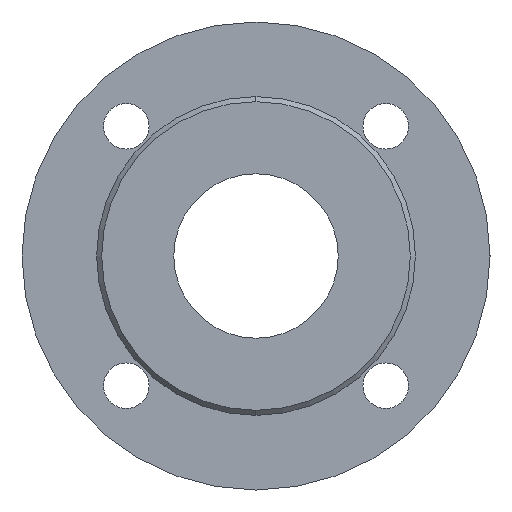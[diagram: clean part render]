
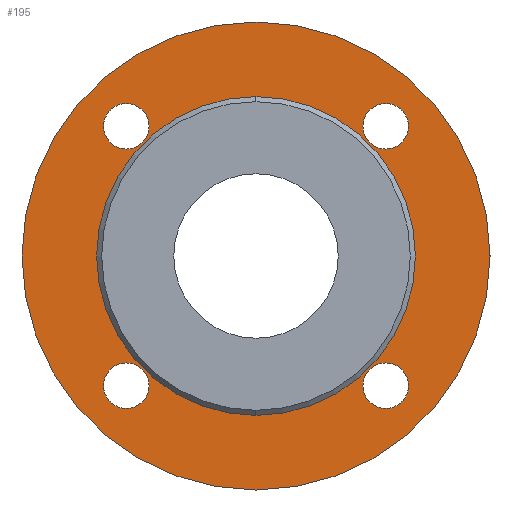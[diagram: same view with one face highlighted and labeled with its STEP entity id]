
A CAD part, left-side view. The second image highlights one B-rep face of the part: STEP entity #195.
In plain terms, the highlighted planar face has unit normal (-1, 0, 0).
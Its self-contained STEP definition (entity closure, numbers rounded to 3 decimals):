
#195=ADVANCED_FACE('',(#384,#385,#386,#387,#388,#389),#390,.F.);
#384=FACE_BOUND('',#580,.T.);
#385=FACE_BOUND('',#581,.T.);
#386=FACE_BOUND('',#582,.T.);
#387=FACE_BOUND('',#583,.T.);
#388=FACE_BOUND('',#584,.T.);
#389=FACE_OUTER_BOUND('',#585,.T.);
#390=PLANE('',#586);
#580=EDGE_LOOP('',(#943,#944));
#581=EDGE_LOOP('',(#945,#946));
#582=EDGE_LOOP('',(#947,#948));
#583=EDGE_LOOP('',(#949,#950));
#584=EDGE_LOOP('',(#951,#952));
#585=EDGE_LOOP('',(#953,#954));
#586=AXIS2_PLACEMENT_3D('',#955,#956,#957);
#943=ORIENTED_EDGE('',*,*,#1128,.T.);
#944=ORIENTED_EDGE('',*,*,#1144,.T.);
#945=ORIENTED_EDGE('',*,*,#1119,.T.);
#946=ORIENTED_EDGE('',*,*,#1146,.T.);
#947=ORIENTED_EDGE('',*,*,#1028,.T.);
#948=ORIENTED_EDGE('',*,*,#1062,.T.);
#949=ORIENTED_EDGE('',*,*,#1165,.T.);
#950=ORIENTED_EDGE('',*,*,#1067,.T.);
#951=ORIENTED_EDGE('',*,*,#1133,.T.);
#952=ORIENTED_EDGE('',*,*,#1157,.T.);
#953=ORIENTED_EDGE('',*,*,#1121,.F.);
#954=ORIENTED_EDGE('',*,*,#1107,.F.);
#955=CARTESIAN_POINT('',(2.0,0.0,0.));
#956=DIRECTION('',(1.0,0.0,0.));
#957=DIRECTION('',(0.,0.0,-1.0));
#1028=EDGE_CURVE('',#1191,#1195,#1197,.T.);
#1062=EDGE_CURVE('',#1195,#1191,#1257,.T.);
#1067=EDGE_CURVE('',#1264,#1262,#1265,.T.);
#1107=EDGE_CURVE('',#1324,#1319,#1326,.T.);
#1119=EDGE_CURVE('',#1336,#1340,#1342,.T.);
#1121=EDGE_CURVE('',#1319,#1324,#1344,.T.);
#1128=EDGE_CURVE('',#1349,#1353,#1355,.T.);
#1133=EDGE_CURVE('',#1358,#1362,#1364,.T.);
#1144=EDGE_CURVE('',#1353,#1349,#1375,.T.);
#1146=EDGE_CURVE('',#1340,#1336,#1377,.T.);
#1157=EDGE_CURVE('',#1362,#1358,#1388,.T.);
#1165=EDGE_CURVE('',#1262,#1264,#1396,.T.);
#1191=VERTEX_POINT('',#1424);
#1195=VERTEX_POINT('',#1429);
#1197=CIRCLE('',#1432,9.0);
#1257=CIRCLE('',#1498,9.0);
#1262=VERTEX_POINT('',#1503);
#1264=VERTEX_POINT('',#1506);
#1265=CIRCLE('',#1507,9.0);
#1319=VERTEX_POINT('',#1570);
#1324=VERTEX_POINT('',#1576);
#1326=CIRCLE('',#1579,92.5);
#1336=VERTEX_POINT('',#1591);
#1340=VERTEX_POINT('',#1596);
#1342=CIRCLE('',#1599,9.0);
#1344=CIRCLE('',#1601,92.5);
#1349=VERTEX_POINT('',#1606);
#1353=VERTEX_POINT('',#1611);
#1355=CIRCLE('',#1614,32.5);
#1358=VERTEX_POINT('',#1617);
#1362=VERTEX_POINT('',#1622);
#1364=CIRCLE('',#1625,9.0);
#1375=CIRCLE('',#1638,32.5);
#1377=CIRCLE('',#1640,9.0);
#1388=CIRCLE('',#1655,9.0);
#1396=CIRCLE('',#1663,9.0);
#1424=CARTESIAN_POINT('',(2.0,51.265,42.265));
#1429=CARTESIAN_POINT('',(2.0,51.265,60.265));
#1432=AXIS2_PLACEMENT_3D('',#1694,#1695,#1696);
#1498=AXIS2_PLACEMENT_3D('',#1766,#1767,#1768);
#1503=CARTESIAN_POINT('',(2.0,-51.265,42.265));
#1506=CARTESIAN_POINT('',(2.0,-51.265,60.265));
#1507=AXIS2_PLACEMENT_3D('',#1773,#1774,#1775);
#1570=CARTESIAN_POINT('',(2.,0.0,-92.5));
#1576=CARTESIAN_POINT('',(2.,0.,92.5));
#1579=AXIS2_PLACEMENT_3D('',#1847,#1848,#1849);
#1591=CARTESIAN_POINT('',(2.0,51.265,-60.265));
#1596=CARTESIAN_POINT('',(2.0,51.265,-42.265));
#1599=AXIS2_PLACEMENT_3D('',#1860,#1861,#1862);
#1601=AXIS2_PLACEMENT_3D('',#1863,#1864,#1865);
#1606=CARTESIAN_POINT('',(2.0,0.0,-32.5));
#1611=CARTESIAN_POINT('',(2.0,0.,32.5));
#1614=AXIS2_PLACEMENT_3D('',#1874,#1875,#1876);
#1617=CARTESIAN_POINT('',(2.0,-51.265,-60.265));
#1622=CARTESIAN_POINT('',(2.0,-51.265,-42.265));
#1625=AXIS2_PLACEMENT_3D('',#1882,#1883,#1884);
#1638=AXIS2_PLACEMENT_3D('',#1899,#1900,#1901);
#1640=AXIS2_PLACEMENT_3D('',#1902,#1903,#1904);
#1655=AXIS2_PLACEMENT_3D('',#1912,#1913,#1914);
#1663=AXIS2_PLACEMENT_3D('',#1921,#1922,#1923);
#1694=CARTESIAN_POINT('',(2.0,51.265,51.265));
#1695=DIRECTION('',(1.0,0.0,0.));
#1696=DIRECTION('',(0.,0.0,-1.0));
#1766=CARTESIAN_POINT('',(2.0,51.265,51.265));
#1767=DIRECTION('',(1.0,0.0,0.));
#1768=DIRECTION('',(0.,0.0,-1.0));
#1773=CARTESIAN_POINT('',(2.0,-51.265,51.265));
#1774=DIRECTION('',(1.0,0.0,0.));
#1775=DIRECTION('',(0.,0.0,-1.0));
#1847=CARTESIAN_POINT('',(2.0,0.0,0.));
#1848=DIRECTION('',(1.0,0.0,0.));
#1849=DIRECTION('',(0.,0.0,-1.0));
#1860=CARTESIAN_POINT('',(2.0,51.265,-51.265));
#1861=DIRECTION('',(1.0,0.0,0.));
#1862=DIRECTION('',(0.,0.0,-1.0));
#1863=CARTESIAN_POINT('',(2.0,0.0,0.));
#1864=DIRECTION('',(1.0,0.0,0.));
#1865=DIRECTION('',(0.,0.0,-1.0));
#1874=CARTESIAN_POINT('',(2.0,0.0,0.));
#1875=DIRECTION('',(1.0,0.0,0.));
#1876=DIRECTION('',(0.,0.0,-1.0));
#1882=CARTESIAN_POINT('',(2.0,-51.265,-51.265));
#1883=DIRECTION('',(1.0,0.0,0.));
#1884=DIRECTION('',(0.,0.0,-1.0));
#1899=CARTESIAN_POINT('',(2.0,0.0,0.));
#1900=DIRECTION('',(1.0,0.0,0.));
#1901=DIRECTION('',(0.,0.0,-1.0));
#1902=CARTESIAN_POINT('',(2.0,51.265,-51.265));
#1903=DIRECTION('',(1.0,0.0,0.));
#1904=DIRECTION('',(0.,0.0,-1.0));
#1912=CARTESIAN_POINT('',(2.0,-51.265,-51.265));
#1913=DIRECTION('',(1.0,0.0,0.));
#1914=DIRECTION('',(0.,0.0,-1.0));
#1921=CARTESIAN_POINT('',(2.0,-51.265,51.265));
#1922=DIRECTION('',(1.0,0.0,0.));
#1923=DIRECTION('',(0.,0.0,-1.0));
